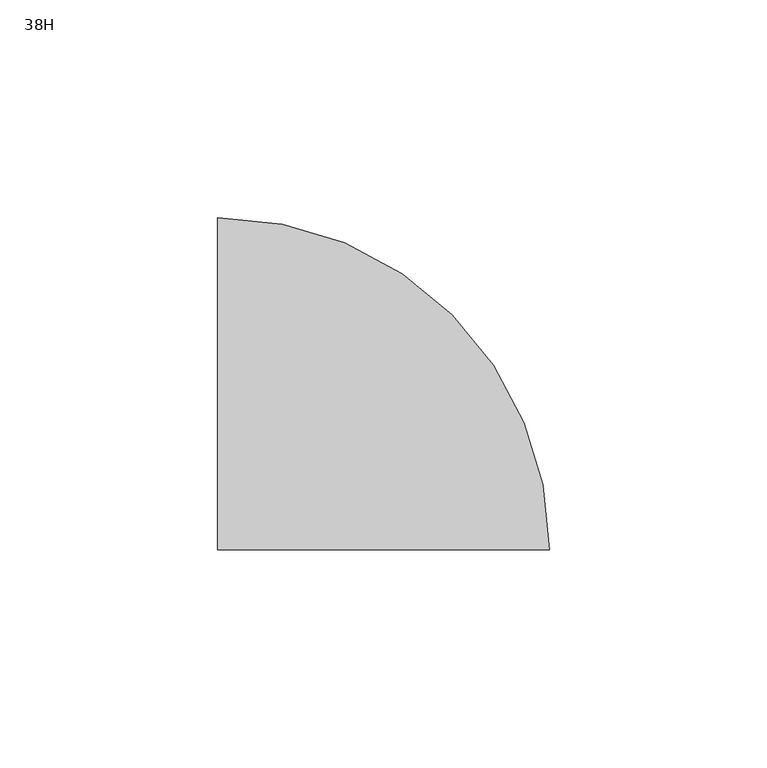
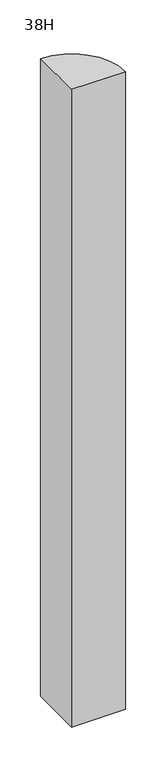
"""IFC4 building model written with IfcOpenShell, lengths in millimetres: furniture geometry, Steelcase - Montage - Junction - L Radius - Same-Height : 38H."""

from ifc_helpers import new_model, si_unit, point, frame, frame_2d, origin, place, context, project, spatial, polyline, circle_curve, trimmed, segment, composite_curve, outline, extrude, source, transform, mapped, element, save


def furniture_38h_e55c0ff0(model_context):
    return source(origin(), model_context, "Body", "SweptSolid", [
        extrude(outline(composite_curve([segment(trimmed(circle_curve(frame_2d((457.2, -38.1000006)), 76.2000006), [point((457.2, 38.1))], [point((533.4000006, -38.1000006))], False, "CARTESIAN"), True, "CONTINUOUS"), segment(polyline([(533.4000006, -38.1000006), (457.2, -38.1000006), (457.2, 38.1)]), True, "CONTINUOUS")], self_intersect=False)), frame((0.0, 0.0, 4.064), z_axis=(0.0, 0.0, 1.0), x_axis=(1.0, 0.0, 0.0)), (0.0, 0.0, 1.0), 954.786),
    ])


if __name__ == "__main__":
    model = new_model("IFC4")
    model_context = context("Model", 3, world=origin())
    ifc_project = project(units=[si_unit("LENGTHUNIT", "METRE", prefix="MILLI")], contexts=[model_context])
    site = spatial("IfcSite", under=ifc_project)
    building = spatial("IfcBuilding", under=site)
    placement = place(None, origin())
    furniture_38h_shape = furniture_38h_e55c0ff0(model_context)
    element("IfcFurniture", 1, ObjectType="Steelcase - Montage - Junction - L Radius - Same-Height : 38H", at=placement, inside=building, context=model_context, shape_type="MappedRepresentation", body=[
        mapped(furniture_38h_shape, transform((0.0, 0.0, 0.0), x_axis=(1.0, 0.0, 0.0), y_axis=(0.0, 1.0, 0.0), z_axis=(0.0, 0.0, 1.0))),
    ])
    save(model, "model.ifc")
